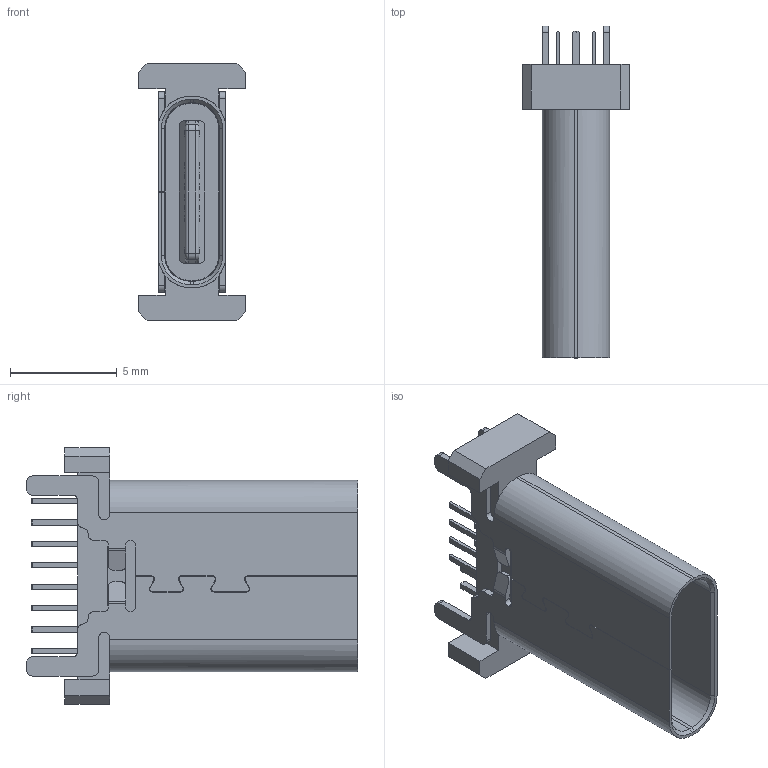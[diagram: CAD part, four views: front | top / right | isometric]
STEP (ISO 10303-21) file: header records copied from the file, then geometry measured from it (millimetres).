
FILE_DESCRIPTION (( 'STEP AP203' ), '1' );
FILE_NAME ('GT-USB-7038F.STEP', '2023-09-19T06:51:15', ( '' ), ( '' ), 'SwSTEP 2.0', 'SolidWorks 2023', '' );
FILE_SCHEMA (( 'CONFIG_CONTROL_DESIGN' ));
Length unit declared in the file: millimetre
Products named in the file (1): GT-USB-7038F
Bounding box: 5 x 15.5 x 12 mm (x, y, z)
Volume: 207.2 mm3; surface area: 823.5 mm2
Topology: 1 solids, 1 shells, 422 faces, 1201 edges, 786 vertices
Faces by surface type: plane 298, cylinder 112, bspline 4, torus 4, cone 4
Entity records: 13828 total; most frequent: CARTESIAN_POINT 2572, ORIENTED_EDGE 2402, DIRECTION 2263, EDGE_CURVE 1201, LINE 953, VECTOR 953, VERTEX_POINT 786, AXIS2_PLACEMENT_3D 655
